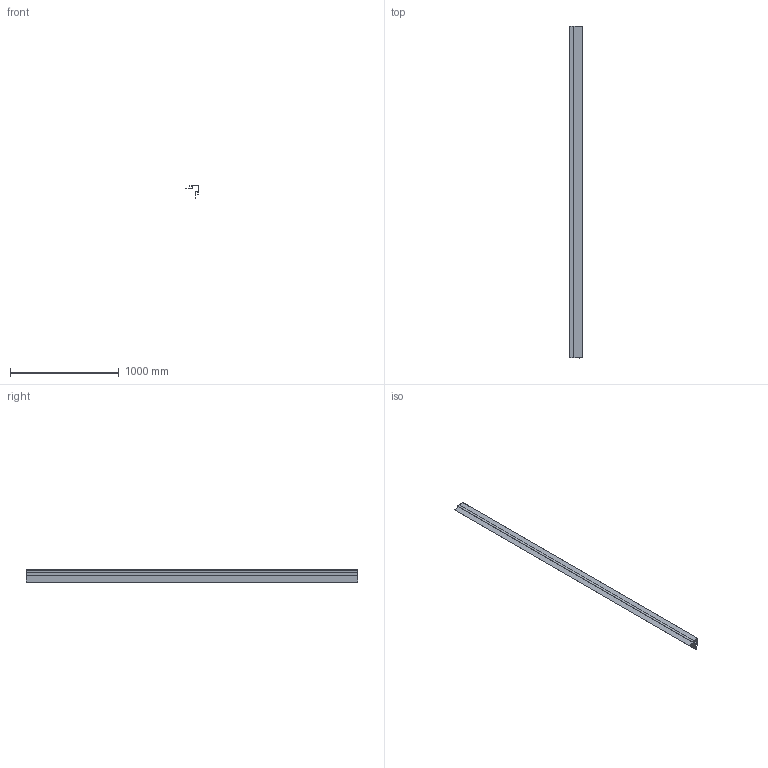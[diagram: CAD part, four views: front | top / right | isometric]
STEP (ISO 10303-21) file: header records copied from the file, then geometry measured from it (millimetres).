
FILE_DESCRIPTION(/* description */ (''),/* implementation_level */ '2;1');
FILE_NAME(/* name */ 'C:\Users\Utilisateur\Documents\Développement Profilés-Moulures\Board & Batten\Fichiers STEP\Moulures\STEP\Fichiers STEP (Cahier de moulures)\Coin extérieur.stp',/* time_stamp */ '2022-05-19T22:47:23-04:00',/* author */ ('Utilisateur'),/* organization */ (''),/* preprocessor_version */ 'ST-DEVELOPER v18.1',/* originating_system */ 'Autodesk Inventor 2021',/* authorisation */ '');
FILE_SCHEMA (('AUTOMOTIVE_DESIGN { 1 0 10303 214 3 1 1 }'));
Length unit declared in the file: inch
Products named in the file (1): Coin extérieur
Bounding box: 114.49 x 3048 x 114.49 mm (x, y, z)
Volume: 519060.3 mm3; surface area: 2279642.1 mm2
Topology: 1 solids, 1 shells, 34 faces, 96 edges, 64 vertices
Faces by surface type: plane 20, cylinder 14
Entity records: 1151 total; most frequent: CARTESIAN_POINT 195, DIRECTION 194, ORIENTED_EDGE 192, EDGE_CURVE 96, LINE 68, VECTOR 68, VERTEX_POINT 64, AXIS2_PLACEMENT_3D 63
